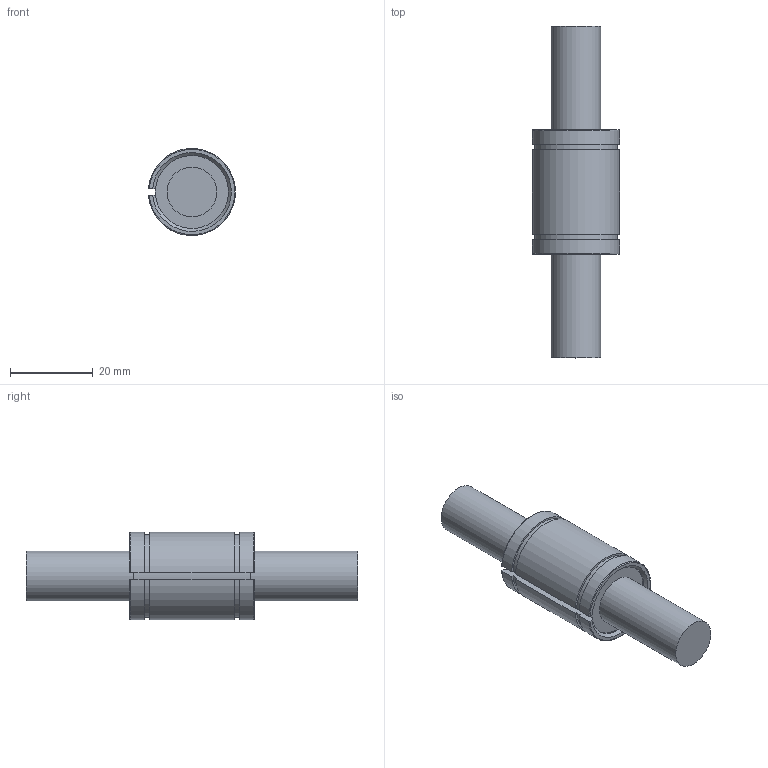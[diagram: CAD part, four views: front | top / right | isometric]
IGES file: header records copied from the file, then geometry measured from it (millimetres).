
Global section: file name: No Iges File Name specified; native system: Autodesk Inventor 2012; preprocessor: AutoDesk Inventor Iges Exporter R2012; author: user2; date: 20130206.101530; units: millimetre
Bounding box: 20.97 x 80 x 20.99 mm (x, y, z)
Volume: 15598.8 mm3; surface area: 4894.1 mm2
Topology: 1 solids, 1 shells, 26 faces, 64 edges, 42 vertices
Faces by surface type: plane 12, cylinder 8, revolution 4, torus 2
Full cylindrical faces by diameter (mm): 12 x2
